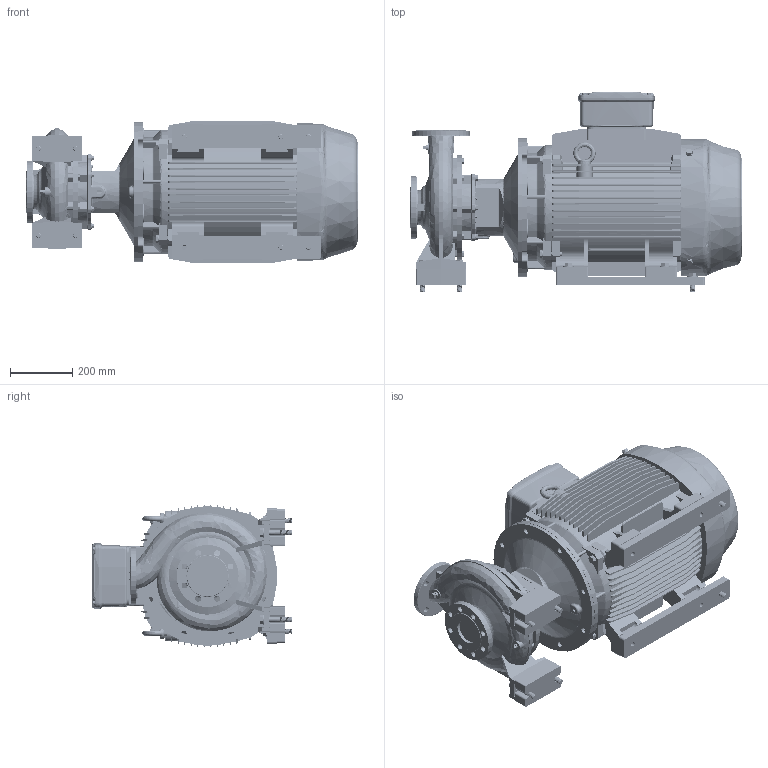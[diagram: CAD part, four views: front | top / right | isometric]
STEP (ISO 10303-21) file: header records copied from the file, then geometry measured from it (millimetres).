
FILE_DESCRIPTION (( 'STEP AP214' ), '1' );
FILE_NAME ('GSD2 65-250_45_(225SM)_W21.STEP', '2026-07-08T06:32:36', ( '' ), ( '' ), 'SwSTEP 2.0', 'SolidWorks 2024', '' );
FILE_SCHEMA (( 'AUTOMOTIVE_DESIGN' ));
Length unit declared in the file: millimetre
Products named in the file (10): Parametric bolt_SFT-A359B; GSD2  65-250_45_(225SM)_W21; Parametric Flat Washer_M16; Parametric bolt_SFT-A377B; Parametric bolt and washer_SFT-A359B; 225S_M2P IE3_W21T_B35; Parametric bolt and washer_SFT-A377B; CGS11-5321_2_3_4_5_CGS11-5322; 80x25 -CGSDA-5281 (225); 65-250-225S_M_ﾃﾞﾌｫﾙﾄ
Assembly tree (22 placements, depth 3):
  GSD2  65-250_45_(225SM)_W21
    65-250-225S_M_ﾃﾞﾌｫﾙﾄ
    CGS11-5321_2_3_4_5_CGS11-5322  x4
    225S_M2P IE3_W21T_B35
    80x25 -CGSDA-5281 (225)  x2
    Parametric bolt and washer_SFT-A359B  x6
      Parametric bolt_SFT-A359B
      Parametric Flat Washer_M16
    Parametric bolt and washer_SFT-A377B  x4
      Parametric bolt_SFT-A377B
      Parametric Flat Washer_M16
Bounding box: 1069.5 x 646 x 459.72 mm (x, y, z)
Volume: 123344193.7 mm3; surface area: 4510592.7 mm2
Topology: 29 solids, 34 shells, 4269 faces, 11324 edges, 7252 vertices
Faces by surface type: plane 1750, cylinder 1487, cone 482, torus 285, bspline 250, sphere 15
Entity records: 150694 total; most frequent: CARTESIAN_POINT 63886, ORIENTED_EDGE 19030, DIRECTION 17300, EDGE_CURVE 9515, AXIS2_PLACEMENT_3D 6333, VERTEX_POINT 6074, VECTOR 4634, LINE 4634
